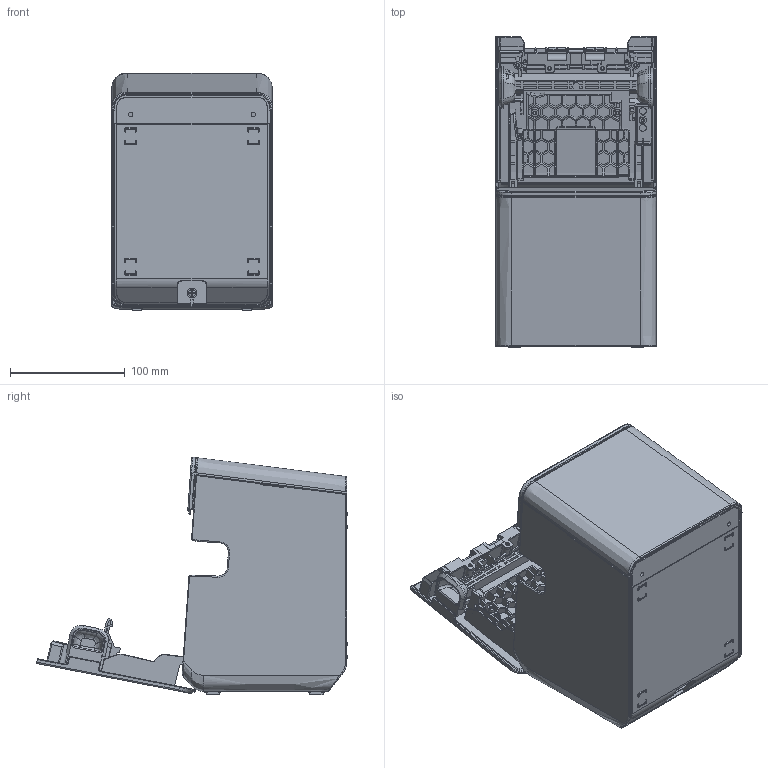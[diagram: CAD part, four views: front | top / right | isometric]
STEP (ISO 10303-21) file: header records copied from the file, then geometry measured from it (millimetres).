
FILE_DESCRIPTION((''),'2;1');
FILE_NAME('TM-L100_OPEN','2025-01-10T14:57:17',('5012938'),(''),'CREO PARAMETRIC BY PTC INC, 2022281','CREO PARAMETRIC BY PTC INC, 2022281','');
FILE_SCHEMA(('AUTOMOTIVE_DESIGN { 1 0 10303 214 1 1 1 1 }'));
Products named in the file (1): TM-L100_OPEN
Bounding box: 140 x 270.6 x 207.04 mm (x, y, z)
Surface area: 440023.1 mm2 (no closed solid volume)
Topology: 0 solids, 29 shells, 3267 faces, 9705 edges, 6356 vertices
Faces by surface type: plane 1879, cylinder 813, bspline 273, torus 146, cone 89, extrusion 43, sphere 24
Entity records: 153830 total; most frequent: CARTESIAN_POINT 68225, ORIENTED_EDGE 18047, DIRECTION 16683, EDGE_CURVE 9705, VECTOR 6663, LINE 6620, VERTEX_POINT 6356, AXIS2_PLACEMENT_3D 5010
